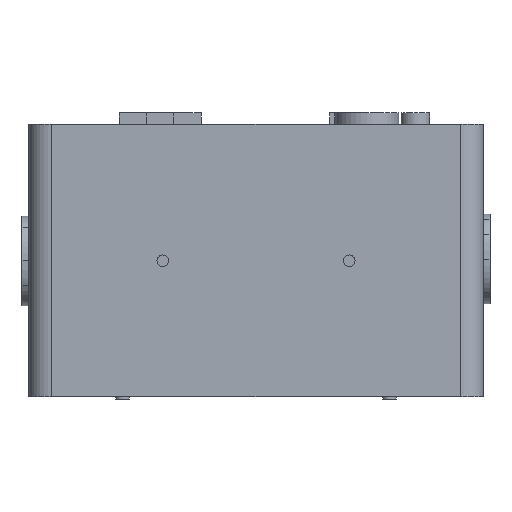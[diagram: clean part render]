
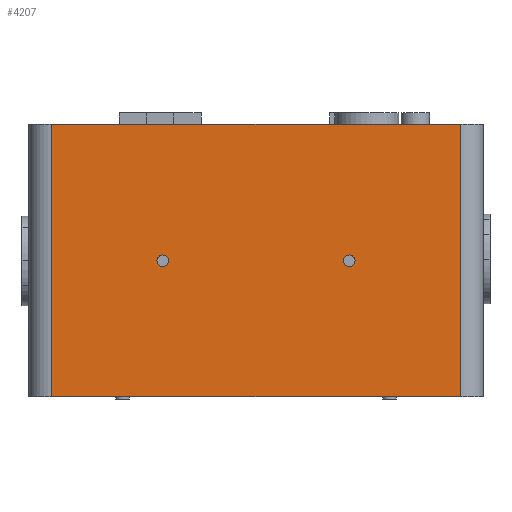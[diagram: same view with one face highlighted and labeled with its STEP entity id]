
A CAD part, front view. The second image highlights one B-rep face of the part: STEP entity #4207.
In plain terms, the highlighted planar face has unit normal (0, -1, 0).
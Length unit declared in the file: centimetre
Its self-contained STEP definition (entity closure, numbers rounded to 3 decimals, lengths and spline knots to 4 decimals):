
#1032=VERTEX_POINT('',#11632);
#1034=VERTEX_POINT('',#11638);
#1035=VERTEX_POINT('',#11642);
#1036=VERTEX_POINT('',#11643);
#1037=VERTEX_POINT('',#11645);
#1038=VERTEX_POINT('',#11647);
#1490=EDGE_CURVE('',#1032,#1032,#5005,.T.);
#1492=EDGE_CURVE('',#1034,#1034,#5007,.T.);
#1493=EDGE_CURVE('',#1035,#1036,#6451,.T.);
#1494=EDGE_CURVE('',#1035,#1037,#6452,.T.);
#1495=EDGE_CURVE('',#1038,#1037,#6453,.T.);
#1496=EDGE_CURVE('',#1038,#1036,#6454,.T.);
#2153=ORIENTED_EDGE('',*,*,#1493,.F.);
#2154=ORIENTED_EDGE('',*,*,#1494,.T.);
#2155=ORIENTED_EDGE('',*,*,#1495,.F.);
#2156=ORIENTED_EDGE('',*,*,#1496,.T.);
#2157=ORIENTED_EDGE('',*,*,#1492,.T.);
#2158=ORIENTED_EDGE('',*,*,#1490,.T.);
#3469=EDGE_LOOP('',(#2153,#2154,#2155,#2156));
#3470=EDGE_LOOP('',(#2157));
#3471=EDGE_LOOP('',(#2158));
#3839=FACE_BOUND('',#3469,.T.);
#3840=FACE_BOUND('',#3470,.T.);
#3841=FACE_BOUND('',#3471,.T.);
#4207=ADVANCED_FACE('',(#3839,#3840,#3841),#9105,.T.);
#5005=CIRCLE('',#8139,0.066);
#5007=CIRCLE('',#8143,0.066);
#6451=LINE('',#11641,#8671);
#6452=LINE('',#11644,#8672);
#6453=LINE('',#11646,#8673);
#6454=LINE('',#11648,#8674);
#8139=AXIS2_PLACEMENT_3D('',#11631,#9630,#9631);
#8143=AXIS2_PLACEMENT_3D('',#11637,#9637,#9638);
#8145=AXIS2_PLACEMENT_3D('',#11640,#9640,$);
#8671=VECTOR('',#9641,1.);
#8672=VECTOR('',#9642,1.);
#8673=VECTOR('',#9643,1.);
#8674=VECTOR('',#9644,1.);
#9105=PLANE('',#8145);
#9630=DIRECTION('',(0.,1.,0.));
#9631=DIRECTION('',(0.066,0.,0.));
#9637=DIRECTION('',(0.,1.,0.));
#9638=DIRECTION('',(0.066,0.,0.));
#9640=DIRECTION('',(0.,-1.,0.));
#9641=DIRECTION('',(0.,0.,1.));
#9642=DIRECTION('',(1.,0.,0.));
#9643=DIRECTION('',(0.,0.,-1.));
#9644=DIRECTION('',(-1.,0.,0.));
#11631=CARTESIAN_POINT('',(1.0413,-3.81,1.5207));
#11632=CARTESIAN_POINT('',(1.1074,-3.81,1.5207));
#11637=CARTESIAN_POINT('',(-1.0413,-3.81,1.5207));
#11638=CARTESIAN_POINT('',(-0.9753,-3.81,1.5207));
#11640=CARTESIAN_POINT('',(0.,-3.81,0.));
#11641=CARTESIAN_POINT('',(-2.286,-3.81,0.));
#11642=CARTESIAN_POINT('',(-2.286,-3.81,0.));
#11643=CARTESIAN_POINT('',(-2.286,-3.81,3.048));
#11644=CARTESIAN_POINT('',(-2.54,-3.81,0.));
#11645=CARTESIAN_POINT('',(2.286,-3.81,0.));
#11646=CARTESIAN_POINT('',(2.286,-3.81,0.));
#11647=CARTESIAN_POINT('',(2.286,-3.81,3.048));
#11648=CARTESIAN_POINT('',(-2.54,-3.81,3.048));
